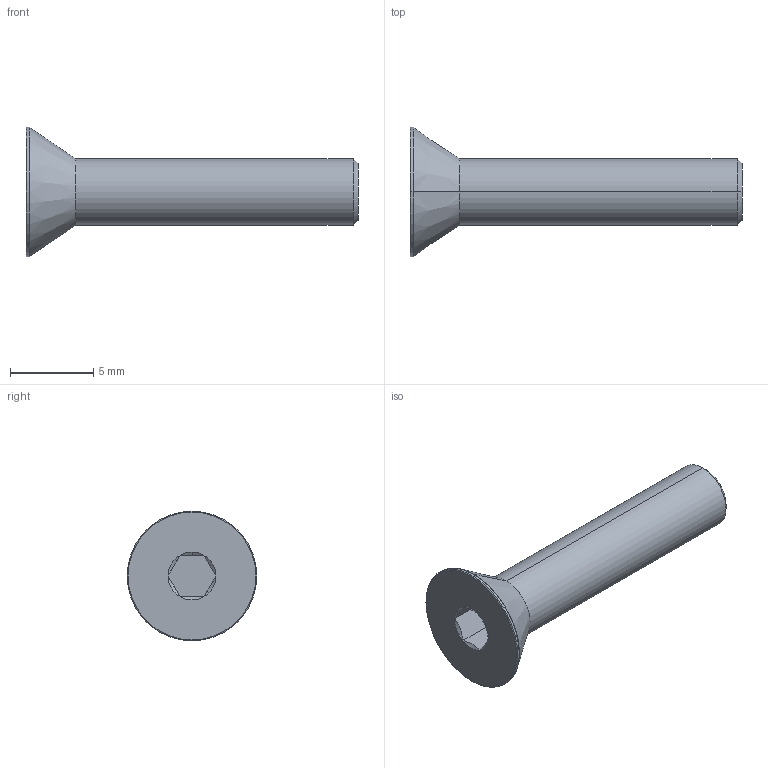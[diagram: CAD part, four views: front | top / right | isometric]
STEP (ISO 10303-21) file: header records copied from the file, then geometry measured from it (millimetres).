
FILE_DESCRIPTION (( 'STEP AP203' ), '1' );
FILE_NAME ('LGDB-TDE-M4x20.STEP', '2026-08-10T11:18:59', ( '' ), ( '' ), 'SwSTEP 2.0', 'SolidWorks 2020', '' );
FILE_SCHEMA (( 'CONFIG_CONTROL_DESIGN' ));
Length unit declared in the file: millimetre
Products named in the file (1): LGDB-TDE-M4x20
Bounding box: 20 x 7.8 x 7.8 mm (x, y, z)
Volume: 290.9 mm3; surface area: 355.5 mm2
Topology: 1 solids, 1 shells, 28 faces, 53 edges, 28 vertices
Faces by surface type: cone 11, plane 9, torus 4, cylinder 4
Entity records: 792 total; most frequent: CARTESIAN_POINT 153, DIRECTION 129, ORIENTED_EDGE 106, AXIS2_PLACEMENT_3D 54, EDGE_CURVE 53, EDGE_LOOP 29, FACE_OUTER_BOUND 28, VERTEX_POINT 28
